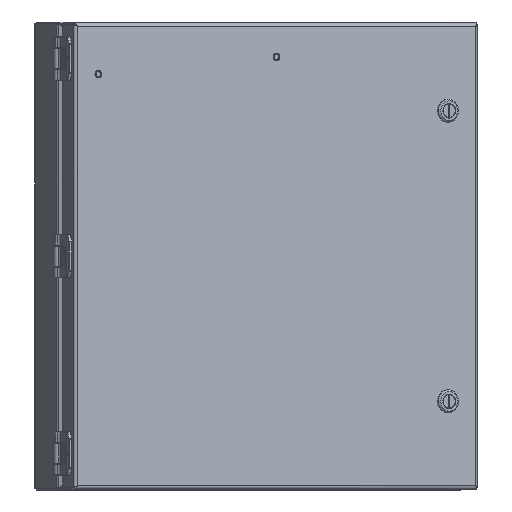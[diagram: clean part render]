
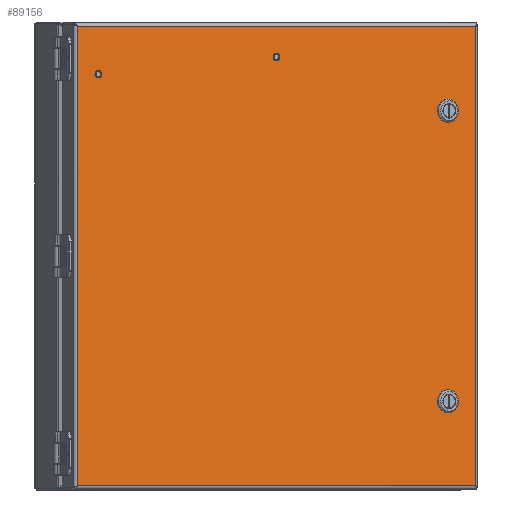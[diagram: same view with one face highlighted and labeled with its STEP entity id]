
A CAD part, front view. The second image highlights one B-rep face of the part: STEP entity #89156.
In plain terms, the highlighted planar face has unit normal (0.5, -0.866, 0) as drawn and (0, 0, 1) by its records, which use the part's own axes.
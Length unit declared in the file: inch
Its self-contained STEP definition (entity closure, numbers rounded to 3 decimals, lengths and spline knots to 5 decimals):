
#86273=CARTESIAN_POINT('',(-7.035,6.22,0.81));
#86274=DIRECTION('',(0.,0.,1.));
#86275=DIRECTION('',(-1.,0.,0.));
#86276=AXIS2_PLACEMENT_3D('',#86273,#86274,#86275);
#86281=CARTESIAN_POINT('',(-7.035,6.22,0.81));
#86282=DIRECTION('',(0.,0.,1.));
#86283=DIRECTION('',(1.,0.,0.));
#86284=AXIS2_PLACEMENT_3D('',#86281,#86282,#86283);
#86289=DIRECTION('',(0.707,0.707,0.));
#86290=VECTOR('',#86289,0.30984);
#86291=CARTESIAN_POINT('',(6.44447,5.05845,0.81));
#86292=LINE('',#86291,#86290);
#86296=CARTESIAN_POINT('',(6.752,4.97,0.81));
#86297=DIRECTION('',(0.,0.,1.));
#86298=DIRECTION('',(-0.961,0.276,0.));
#86299=AXIS2_PLACEMENT_3D('',#86296,#86297,#86298);
#86304=DIRECTION('',(-0.707,0.707,0.));
#86305=VECTOR('',#86304,0.30984);
#86306=CARTESIAN_POINT('',(6.66355,4.66247,0.81));
#86307=LINE('',#86306,#86305);
#86311=CARTESIAN_POINT('',(6.752,4.97,0.81));
#86312=DIRECTION('',(0.,0.,1.));
#86313=DIRECTION('',(-0.276,-0.961,0.));
#86314=AXIS2_PLACEMENT_3D('',#86311,#86312,#86313);
#86319=DIRECTION('',(-0.707,-0.707,0.));
#86320=VECTOR('',#86319,0.30984);
#86321=CARTESIAN_POINT('',(7.05953,4.88155,0.81));
#86322=LINE('',#86321,#86320);
#86326=CARTESIAN_POINT('',(6.752,4.97,0.81));
#86327=DIRECTION('',(0.,0.,1.));
#86328=DIRECTION('',(0.961,-0.276,0.));
#86329=AXIS2_PLACEMENT_3D('',#86326,#86327,#86328);
#86334=DIRECTION('',(0.707,-0.707,0.));
#86335=VECTOR('',#86334,0.30984);
#86336=CARTESIAN_POINT('',(6.84045,5.27753,0.81));
#86337=LINE('',#86336,#86335);
#86341=CARTESIAN_POINT('',(6.752,4.97,0.81));
#86342=DIRECTION('',(0.,0.,1.));
#86343=DIRECTION('',(0.276,0.961,0.));
#86344=AXIS2_PLACEMENT_3D('',#86341,#86342,#86343);
#86349=DIRECTION('',(0.707,0.707,0.));
#86350=VECTOR('',#86349,0.30984);
#86351=CARTESIAN_POINT('',(6.44447,-4.88155,0.81));
#86352=LINE('',#86351,#86350);
#86356=CARTESIAN_POINT('',(6.752,-4.97,0.81));
#86357=DIRECTION('',(0.,0.,1.));
#86358=DIRECTION('',(-0.961,0.276,0.));
#86359=AXIS2_PLACEMENT_3D('',#86356,#86357,#86358);
#86364=DIRECTION('',(-0.707,0.707,0.));
#86365=VECTOR('',#86364,0.30984);
#86366=CARTESIAN_POINT('',(6.66355,-5.27753,0.81));
#86367=LINE('',#86366,#86365);
#86371=CARTESIAN_POINT('',(6.752,-4.97,0.81));
#86372=DIRECTION('',(0.,0.,1.));
#86373=DIRECTION('',(-0.276,-0.961,0.));
#86374=AXIS2_PLACEMENT_3D('',#86371,#86372,#86373);
#86379=DIRECTION('',(-0.707,-0.707,0.));
#86380=VECTOR('',#86379,0.30984);
#86381=CARTESIAN_POINT('',(7.05953,-5.05845,0.81));
#86382=LINE('',#86381,#86380);
#86386=CARTESIAN_POINT('',(6.752,-4.97,0.81));
#86387=DIRECTION('',(0.,0.,1.));
#86388=DIRECTION('',(0.961,-0.276,0.));
#86389=AXIS2_PLACEMENT_3D('',#86386,#86387,#86388);
#86394=DIRECTION('',(0.707,-0.707,0.));
#86395=VECTOR('',#86394,0.30984);
#86396=CARTESIAN_POINT('',(6.84045,-4.66247,0.81));
#86397=LINE('',#86396,#86395);
#86401=CARTESIAN_POINT('',(6.752,-4.97,0.81));
#86402=DIRECTION('',(0.,0.,1.));
#86403=DIRECTION('',(0.276,0.961,0.));
#86404=AXIS2_PLACEMENT_3D('',#86401,#86402,#86403);
#86409=CARTESIAN_POINT('',(0.,6.81234,0.81));
#86410=DIRECTION('',(0.,0.,1.));
#86411=DIRECTION('',(0.,1.,0.));
#86412=AXIS2_PLACEMENT_3D('',#86409,#86410,#86411);
#86417=CARTESIAN_POINT('',(0.,6.81234,0.81));
#86418=DIRECTION('',(0.,0.,1.));
#86419=DIRECTION('',(0.,-1.,0.));
#86420=AXIS2_PLACEMENT_3D('',#86417,#86418,#86419);
#86425=DIRECTION('',(1.,0.,0.));
#86426=VECTOR('',#86425,15.716);
#86427=CARTESIAN_POINT('',(-7.858,-7.858,0.81));
#86428=LINE('',#86427,#86426);
#86602=DIRECTION('',(0.,1.,0.));
#86603=VECTOR('',#86602,15.716);
#86604=CARTESIAN_POINT('',(7.858,-7.858,0.81));
#86605=LINE('',#86604,#86603);
#86669=DIRECTION('',(-1.,0.,0.));
#86670=VECTOR('',#86669,15.716);
#86671=CARTESIAN_POINT('',(7.858,7.858,0.81));
#86672=LINE('',#86671,#86670);
#86846=DIRECTION('',(0.,-1.,0.));
#86847=VECTOR('',#86846,15.716);
#86848=CARTESIAN_POINT('',(-7.858,7.858,0.81));
#86849=LINE('',#86848,#86847);
#88757=CARTESIAN_POINT('',(-7.858,7.858,0.81));
#88758=CARTESIAN_POINT('',(-7.858,-7.858,0.81));
#88759=VERTEX_POINT('',#88757);
#88760=VERTEX_POINT('',#88758);
#88761=CARTESIAN_POINT('',(7.858,-7.858,0.81));
#88762=CARTESIAN_POINT('',(7.858,7.858,0.81));
#88763=VERTEX_POINT('',#88761);
#88764=VERTEX_POINT('',#88762);
#88817=CARTESIAN_POINT('',(-7.13155,6.22,0.81));
#88818=CARTESIAN_POINT('',(-6.93845,6.22,0.81));
#88819=VERTEX_POINT('',#88817);
#88820=VERTEX_POINT('',#88818);
#88825=CARTESIAN_POINT('',(6.44447,5.05845,0.81));
#88826=CARTESIAN_POINT('',(6.66355,5.27753,0.81));
#88827=VERTEX_POINT('',#88825);
#88828=VERTEX_POINT('',#88826);
#88829=CARTESIAN_POINT('',(6.84045,5.27753,0.81));
#88830=VERTEX_POINT('',#88829);
#88831=CARTESIAN_POINT('',(7.05953,5.05845,0.81));
#88832=VERTEX_POINT('',#88831);
#88833=CARTESIAN_POINT('',(7.05953,4.88155,0.81));
#88834=VERTEX_POINT('',#88833);
#88835=CARTESIAN_POINT('',(6.84045,4.66247,0.81));
#88836=VERTEX_POINT('',#88835);
#88837=CARTESIAN_POINT('',(6.66355,4.66247,0.81));
#88838=VERTEX_POINT('',#88837);
#88839=CARTESIAN_POINT('',(6.44447,4.88155,0.81));
#88840=VERTEX_POINT('',#88839);
#88873=CARTESIAN_POINT('',(6.44447,-4.88155,0.81));
#88874=CARTESIAN_POINT('',(6.66355,-4.66247,0.81));
#88875=VERTEX_POINT('',#88873);
#88876=VERTEX_POINT('',#88874);
#88877=CARTESIAN_POINT('',(6.84045,-4.66247,0.81));
#88878=VERTEX_POINT('',#88877);
#88879=CARTESIAN_POINT('',(7.05953,-4.88155,0.81));
#88880=VERTEX_POINT('',#88879);
#88881=CARTESIAN_POINT('',(7.05953,-5.05845,0.81));
#88882=VERTEX_POINT('',#88881);
#88883=CARTESIAN_POINT('',(6.84045,-5.27753,0.81));
#88884=VERTEX_POINT('',#88883);
#88885=CARTESIAN_POINT('',(6.66355,-5.27753,0.81));
#88886=VERTEX_POINT('',#88885);
#88887=CARTESIAN_POINT('',(6.44447,-5.05845,0.81));
#88888=VERTEX_POINT('',#88887);
#88929=CARTESIAN_POINT('',(0.,6.90889,0.81));
#88930=CARTESIAN_POINT('',(0.,6.71579,0.81));
#88931=VERTEX_POINT('',#88929);
#88932=VERTEX_POINT('',#88930);
#89093=CARTESIAN_POINT('',(0.,0.,0.81));
#89094=DIRECTION('',(0.,0.,1.));
#89095=DIRECTION('',(1.,0.,0.));
#89096=AXIS2_PLACEMENT_3D('',#89093,#89094,#89095);
#89097=PLANE('',#89096);
#89099=ORIENTED_EDGE('',*,*,#89098,.F.);
#89101=ORIENTED_EDGE('',*,*,#89100,.F.);
#89103=ORIENTED_EDGE('',*,*,#89102,.F.);
#89105=ORIENTED_EDGE('',*,*,#89104,.F.);
#89106=EDGE_LOOP('',(#89099,#89101,#89103,#89105));
#89107=FACE_OUTER_BOUND('',#89106,.F.);
#89109=ORIENTED_EDGE('',*,*,#89108,.T.);
#89111=ORIENTED_EDGE('',*,*,#89110,.T.);
#89112=EDGE_LOOP('',(#89109,#89111));
#89113=FACE_BOUND('',#89112,.F.);
#89115=ORIENTED_EDGE('',*,*,#89114,.F.);
#89117=ORIENTED_EDGE('',*,*,#89116,.T.);
#89119=ORIENTED_EDGE('',*,*,#89118,.F.);
#89121=ORIENTED_EDGE('',*,*,#89120,.T.);
#89123=ORIENTED_EDGE('',*,*,#89122,.F.);
#89125=ORIENTED_EDGE('',*,*,#89124,.T.);
#89127=ORIENTED_EDGE('',*,*,#89126,.F.);
#89129=ORIENTED_EDGE('',*,*,#89128,.T.);
#89130=EDGE_LOOP('',(#89115,#89117,#89119,#89121,#89123,#89125,#89127,#89129));
#89131=FACE_BOUND('',#89130,.F.);
#89133=ORIENTED_EDGE('',*,*,#89132,.F.);
#89135=ORIENTED_EDGE('',*,*,#89134,.T.);
#89137=ORIENTED_EDGE('',*,*,#89136,.F.);
#89139=ORIENTED_EDGE('',*,*,#89138,.T.);
#89141=ORIENTED_EDGE('',*,*,#89140,.F.);
#89143=ORIENTED_EDGE('',*,*,#89142,.T.);
#89145=ORIENTED_EDGE('',*,*,#89144,.F.);
#89147=ORIENTED_EDGE('',*,*,#89146,.T.);
#89148=EDGE_LOOP('',(#89133,#89135,#89137,#89139,#89141,#89143,#89145,#89147));
#89149=FACE_BOUND('',#89148,.F.);
#89151=ORIENTED_EDGE('',*,*,#89150,.T.);
#89153=ORIENTED_EDGE('',*,*,#89152,.T.);
#89154=EDGE_LOOP('',(#89151,#89153));
#89155=FACE_BOUND('',#89154,.F.);
#86277=CIRCLE('',#86276,0.09655);
#86285=CIRCLE('',#86284,0.09655);
#86300=CIRCLE('',#86299,0.32);
#86315=CIRCLE('',#86314,0.32);
#86330=CIRCLE('',#86329,0.32);
#86345=CIRCLE('',#86344,0.32);
#86360=CIRCLE('',#86359,0.32);
#86375=CIRCLE('',#86374,0.32);
#86390=CIRCLE('',#86389,0.32);
#86405=CIRCLE('',#86404,0.32);
#86413=CIRCLE('',#86412,0.09655);
#86421=CIRCLE('',#86420,0.09655);
#89098=EDGE_CURVE('',#88760,#88763,#86428,.T.);
#89100=EDGE_CURVE('',#88759,#88760,#86849,.T.);
#89102=EDGE_CURVE('',#88764,#88759,#86672,.T.);
#89104=EDGE_CURVE('',#88763,#88764,#86605,.T.);
#89108=EDGE_CURVE('',#88819,#88820,#86277,.T.);
#89110=EDGE_CURVE('',#88820,#88819,#86285,.T.);
#89114=EDGE_CURVE('',#88827,#88828,#86292,.T.);
#89116=EDGE_CURVE('',#88827,#88840,#86300,.T.);
#89118=EDGE_CURVE('',#88838,#88840,#86307,.T.);
#89120=EDGE_CURVE('',#88838,#88836,#86315,.T.);
#89122=EDGE_CURVE('',#88834,#88836,#86322,.T.);
#89124=EDGE_CURVE('',#88834,#88832,#86330,.T.);
#89126=EDGE_CURVE('',#88830,#88832,#86337,.T.);
#89128=EDGE_CURVE('',#88830,#88828,#86345,.T.);
#89132=EDGE_CURVE('',#88875,#88876,#86352,.T.);
#89134=EDGE_CURVE('',#88875,#88888,#86360,.T.);
#89136=EDGE_CURVE('',#88886,#88888,#86367,.T.);
#89138=EDGE_CURVE('',#88886,#88884,#86375,.T.);
#89140=EDGE_CURVE('',#88882,#88884,#86382,.T.);
#89142=EDGE_CURVE('',#88882,#88880,#86390,.T.);
#89144=EDGE_CURVE('',#88878,#88880,#86397,.T.);
#89146=EDGE_CURVE('',#88878,#88876,#86405,.T.);
#89150=EDGE_CURVE('',#88931,#88932,#86413,.T.);
#89152=EDGE_CURVE('',#88932,#88931,#86421,.T.);
#89156=ADVANCED_FACE('',(#89107,#89113,#89131,#89149,#89155),#89097,.T.);
